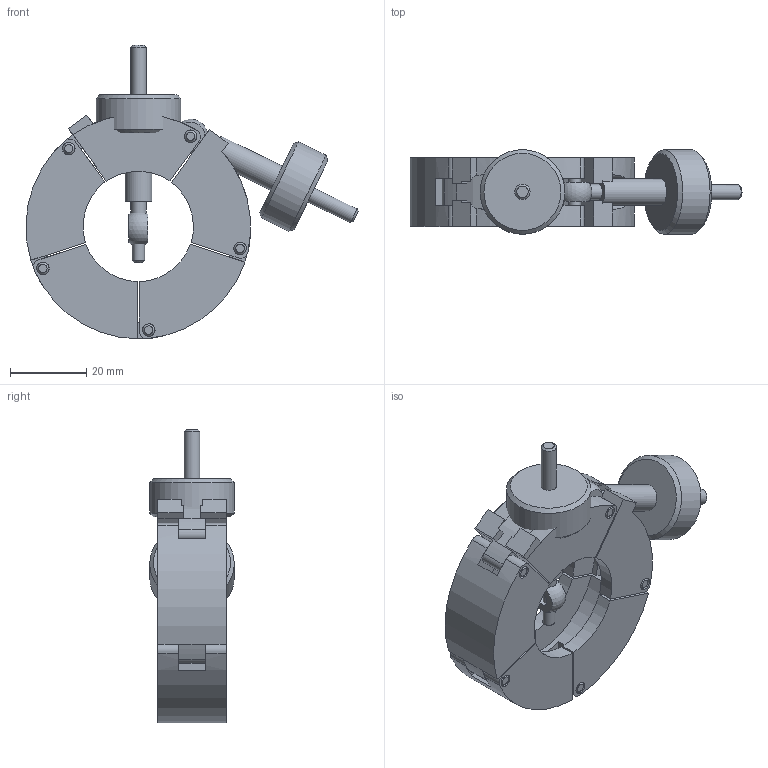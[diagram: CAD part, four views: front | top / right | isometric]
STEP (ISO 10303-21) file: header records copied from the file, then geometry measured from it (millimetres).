
FILE_DESCRIPTION( ( 'Unknown' ), '1' );
FILE_NAME( 'X:/Daten ( aktueller Bestand )/Projekte und Zeichnungen/Solid Edge/5 Spannringe/Kunststoff/Spannkette/1352.stp', 'Unknown', ( 'Unknown' ), ( 'Unknown' ), 'XStep 1.0', 'Unknown', ' ' );
FILE_SCHEMA( ( 'automotive_design' ) );
Length unit declared in the file: millimetre
Products named in the file (5): Assem1; 1352-1; 1352-2; 1351-2; 1351-3
Bounding box: 87.07 x 22.19 x 77.03 mm (x, y, z)
Volume: 46639.3 mm3; surface area: 25668.7 mm2
Topology: 15 solids, 15 shells, 244 faces, 618 edges, 410 vertices
Faces by surface type: plane 123, cylinder 101, cone 18, sphere 2
Full cylindrical faces by diameter (mm): 3.2 x6, 3.3 x19, 3.5 x2, 4 x4, 7 x2, 22.193 x2
Entity records: 2382 total; most frequent: CARTESIAN_POINT 408, DIRECTION 402, ORIENTED_EDGE 318, AXIS2_PLACEMENT_3D 159, EDGE_CURVE 159, VERTEX_POINT 115, EDGE_LOOP 106, FACE_OUTER_BOUND 84
